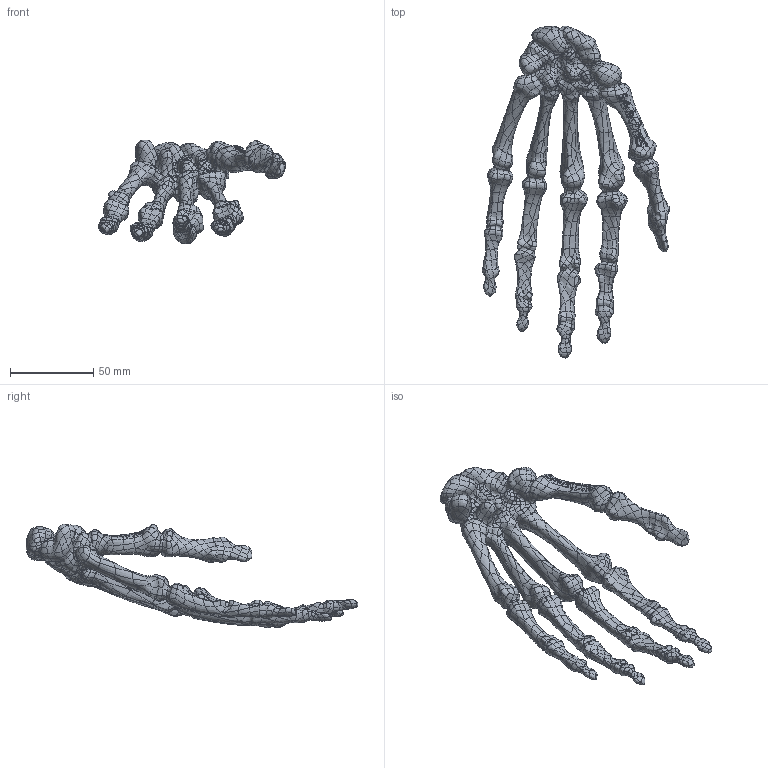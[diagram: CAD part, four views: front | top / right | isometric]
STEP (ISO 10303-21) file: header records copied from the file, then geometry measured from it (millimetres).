
FILE_DESCRIPTION (( 'STEP AP203' ), '1' );
FILE_NAME ('1016.STEP', '2025-05-20T21:13:08', ( '' ), ( '' ), 'SwSTEP 2.0', 'SolidWorks 2024', '' );
FILE_SCHEMA (( 'CONFIG_CONTROL_DESIGN' ));
Products named in the file (1): 1016
Bounding box: 112.44 x 199.14 x 62.28 mm (x, y, z)
Volume: 89028.4 mm3; surface area: 31682.2 mm2
Topology: 1 solids, 1 shells, 2259 faces, 4707 edges, 2453 vertices
Faces by surface type: bspline 2258, plane 1
Entity records: 281982 total; most frequent: CARTESIAN_POINT 251572, ORIENTED_EDGE 9414, B_SPLINE_CURVE_WITH_KNOTS 4707, EDGE_CURVE 4707, VERTEX_POINT 2453, EDGE_LOOP 2262, FACE_OUTER_BOUND 2259, ADVANCED_FACE 2259
